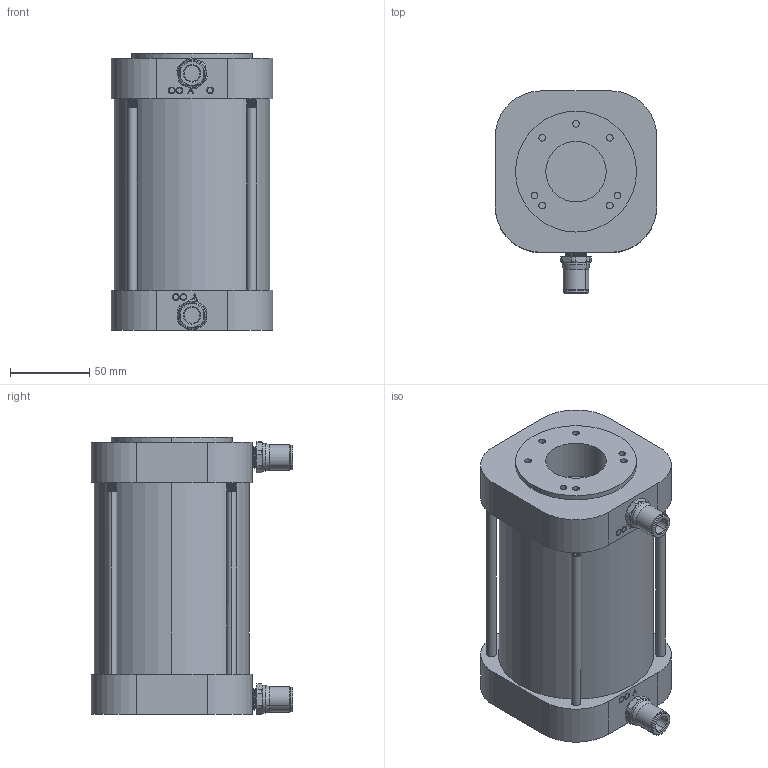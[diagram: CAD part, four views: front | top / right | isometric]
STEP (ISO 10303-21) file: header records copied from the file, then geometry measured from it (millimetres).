
FILE_DESCRIPTION (( 'STEP AP214' ), '1' );
FILE_NAME ('BD-38-H-B-W.STEP', '2018-06-12T18:16:04', ( '' ), ( '' ), 'SwSTEP 2.0', 'SolidWorks 2018', '' );
FILE_SCHEMA (( 'AUTOMOTIVE_DESIGN' ));
Length unit declared in the file: inch
Products named in the file (1): BD-38-H-B-W
Bounding box: 101.6 x 127 x 174.86 mm (x, y, z)
Volume: 1398896.8 mm3; surface area: 100578.9 mm2
Topology: 1 solids, 1 shells, 413 faces, 1050 edges, 682 vertices
Faces by surface type: cylinder 180, plane 93, cone 82, bspline 58
Entity records: 59255 total; most frequent: CARTESIAN_POINT 50245, ORIENTED_EDGE 2100, DIRECTION 1578, EDGE_CURVE 1050, VERTEX_POINT 682, AXIS2_PLACEMENT_3D 604, EDGE_LOOP 464, FACE_OUTER_BOUND 413
